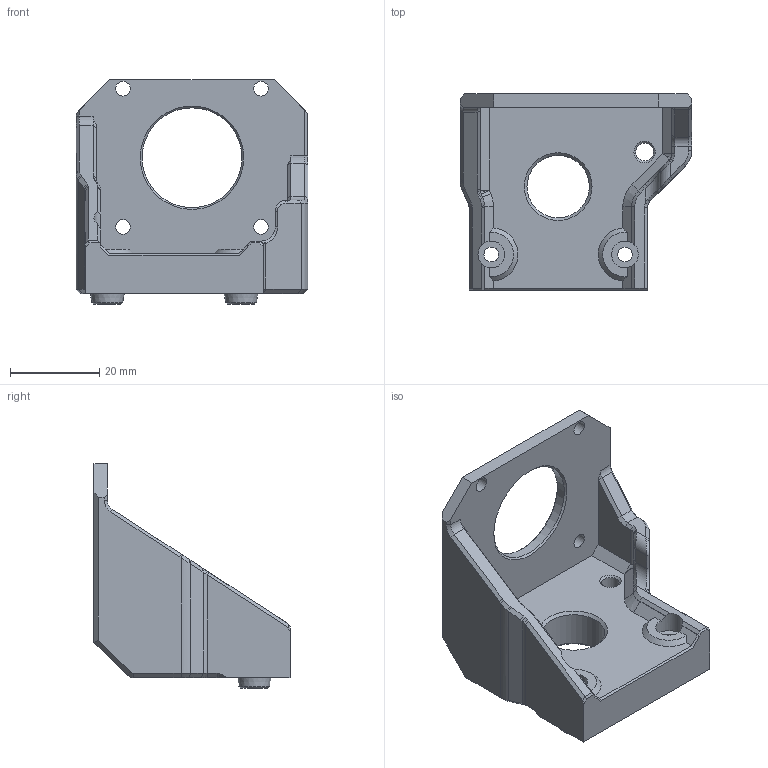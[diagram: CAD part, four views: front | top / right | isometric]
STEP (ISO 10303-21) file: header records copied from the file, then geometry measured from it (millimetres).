
FILE_DESCRIPTION(/* description */ (''),/* implementation_level */ '2;1');
FILE_NAME(/* name */ 'HMG7-Creality-Dual-Gear-Rear-Mount.step',/* time_stamp */ '2022-11-01T22:07:19-07:00',/* author */ (''),/* organization */ (''),/* preprocessor_version */ 'ST-DEVELOPER v19.2',/* originating_system */ 'Autodesk Translation Framework v11.17.0.187',/* authorisation */ '');
FILE_SCHEMA (('AUTOMOTIVE_DESIGN { 1 0 10303 214 3 1 1 }'));
Length unit declared in the file: millimetre
Products named in the file (3): GEN_7_1.5; Creality_Dual_Gear_Rear; Creality_Dual_Gear_Rear_Stepper_Mount
Assembly tree (2 placements, depth 3):
  GEN_7_1.5
    Creality_Dual_Gear_Rear
      Creality_Dual_Gear_Rear_Stepper_Mount
Bounding box: 52 x 43.98 x 50.38 mm (x, y, z)
Volume: 23488.3 mm3; surface area: 11052.3 mm2
Topology: 1 solids, 1 shells, 170 faces, 432 edges, 264 vertices
Faces by surface type: plane 86, cone 31, cylinder 27, bspline 26
Full cylindrical faces by diameter (mm): 3.3 x6, 4 x1, 6 x2, 14 x1, 22.4 x1
Entity records: 5545 total; most frequent: CARTESIAN_POINT 1511, ORIENTED_EDGE 860, DIRECTION 752, EDGE_CURVE 430, LINE 274, VECTOR 274, VERTEX_POINT 264, AXIS2_PLACEMENT_3D 239
